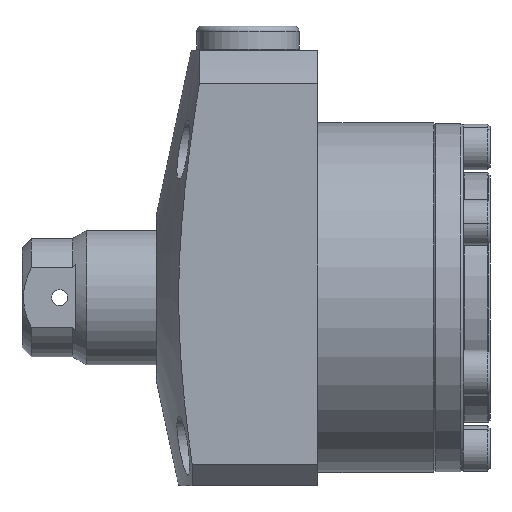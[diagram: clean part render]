
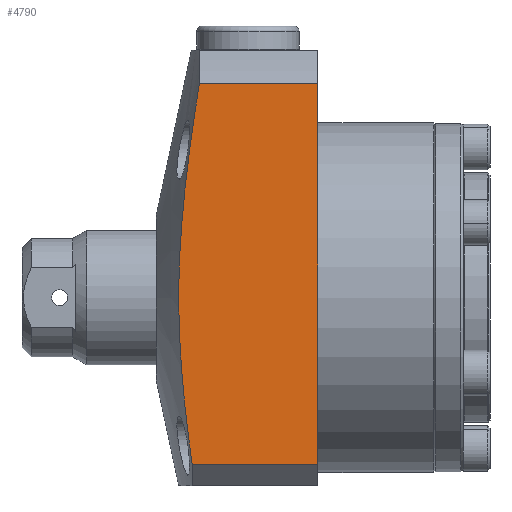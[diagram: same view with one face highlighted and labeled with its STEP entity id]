
A CAD part, left-side view. The second image highlights one B-rep face of the part: STEP entity #4790.
In plain terms, the highlighted planar face has unit normal (-1, 0, 0).
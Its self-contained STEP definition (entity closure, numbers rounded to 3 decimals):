
#281 = CARTESIAN_POINT ( 'NONE',  ( -35., 0., 39.799 ) ) ;
#284 = CARTESIAN_POINT ( 'NONE',  ( -35., 0., -31. ) ) ;
#285 = CARTESIAN_POINT ( 'NONE',  ( -35., 22.029, 39.799 ) ) ;
#286 = CARTESIAN_POINT ( 'NONE',  ( -35., 23.357, -31. ) ) ;
#1301 = VECTOR ( 'NONE', #5362, 1000. ) ;
#1302 = VECTOR ( 'NONE', #5364, 1000. ) ;
#1304 = VECTOR ( 'NONE', #5367, 1000. ) ;
#2366 = CARTESIAN_POINT ( 'NONE',  ( -35., 30., 46. ) ) ;
#2374 = FACE_OUTER_BOUND ( 'NONE', #3865, .T. ) ;
#2375 = PLANE ( 'NONE',  #4453 ) ;
#2377 = DIRECTION ( 'NONE',  ( 1., 0., 0. ) ) ;
#2378 = DIRECTION ( 'NONE',  ( 0., 0., -1. ) ) ;
#3865 = EDGE_LOOP ( 'NONE', ( #4088, #4090, #4092, #4094 ) ) ;
#4088 = ORIENTED_EDGE ( 'NONE', *, *, #5106, .F. ) ;
#4090 = ORIENTED_EDGE ( 'NONE', *, *, #5117, .T. ) ;
#4092 = ORIENTED_EDGE ( 'NONE', *, *, #5118, .F. ) ;
#4094 = ORIENTED_EDGE ( 'NONE', *, *, #5119, .T. ) ;
#4453 = AXIS2_PLACEMENT_3D ( 'NONE', #2366, #2377, #2378 ) ;
#4622 = B_SPLINE_CURVE_WITH_KNOTS ( 'NONE', 3,
 ( #5231, #5230, #5235, #5236, #5237, #5238, #5239, #5240, #5241, #5242, #5243, #5244, #5245, #5246, #5247, #5248, #5249, #5250 ),
 .UNSPECIFIED., .F., .F.,
 ( 4, 2, 2, 2, 2, 2, 2, 2, 4 ),
 ( 0.039, 0.048, 0.057, 0.066, 0.075, 0.084, 0.092, 0.101, 0.11 ),
 .UNSPECIFIED. ) ;
#4790 = ADVANCED_FACE ( 'NONE', ( #2374 ), #2375, .F. ) ;
#4992 = VERTEX_POINT ( 'NONE', #281 ) ;
#4994 = VERTEX_POINT ( 'NONE', #284 ) ;
#4995 = VERTEX_POINT ( 'NONE', #285 ) ;
#4996 = VERTEX_POINT ( 'NONE', #286 ) ;
#5106 = EDGE_CURVE ( 'NONE', #4996, #4995, #4622, .T. ) ;
#5117 = EDGE_CURVE ( 'NONE', #4996, #4994, #5345, .T. ) ;
#5118 = EDGE_CURVE ( 'NONE', #4992, #4994, #5356, .T. ) ;
#5119 = EDGE_CURVE ( 'NONE', #4992, #4995, #5365, .T. ) ;
#5230 = CARTESIAN_POINT ( 'NONE',  ( -35., 23.771, -28.059 ) ) ;
#5231 = CARTESIAN_POINT ( 'NONE',  ( -35., 23.357, -31. ) ) ;
#5235 = CARTESIAN_POINT ( 'NONE',  ( -35., 24.154, -25.11 ) ) ;
#5236 = CARTESIAN_POINT ( 'NONE',  ( -35., 24.825, -19.212 ) ) ;
#5237 = CARTESIAN_POINT ( 'NONE',  ( -35., 25.112, -16.262 ) ) ;
#5238 = CARTESIAN_POINT ( 'NONE',  ( -35., 25.558, -10.36 ) ) ;
#5239 = CARTESIAN_POINT ( 'NONE',  ( -35., 25.716, -7.408 ) ) ;
#5240 = CARTESIAN_POINT ( 'NONE',  ( -35., 25.874, -1.5 ) ) ;
#5241 = CARTESIAN_POINT ( 'NONE',  ( -35., 25.875, 1.455 ) ) ;
#5242 = CARTESIAN_POINT ( 'NONE',  ( -35., 25.718, 7.369 ) ) ;
#5243 = CARTESIAN_POINT ( 'NONE',  ( -35., 25.56, 10.328 ) ) ;
#5244 = CARTESIAN_POINT ( 'NONE',  ( -35., 25.114, 16.247 ) ) ;
#5245 = CARTESIAN_POINT ( 'NONE',  ( -35., 24.825, 19.211 ) ) ;
#5246 = CARTESIAN_POINT ( 'NONE',  ( -35., 24.153, 25.117 ) ) ;
#5247 = CARTESIAN_POINT ( 'NONE',  ( -35., 23.771, 28.062 ) ) ;
#5248 = CARTESIAN_POINT ( 'NONE',  ( -35., 22.942, 33.938 ) ) ;
#5249 = CARTESIAN_POINT ( 'NONE',  ( -35., 22.497, 36.871 ) ) ;
#5250 = CARTESIAN_POINT ( 'NONE',  ( -35., 22.029, 39.799 ) ) ;
#5345 = LINE ( 'NONE', #5361, #1301 ) ;
#5356 = LINE ( 'NONE', #5363, #1302 ) ;
#5361 = CARTESIAN_POINT ( 'NONE',  ( -35., 30., -31. ) ) ;
#5362 = DIRECTION ( 'NONE',  ( 0., -1., 0. ) ) ;
#5363 = CARTESIAN_POINT ( 'NONE',  ( -35., 0., -35. ) ) ;
#5364 = DIRECTION ( 'NONE',  ( 0., 0., -1. ) ) ;
#5365 = LINE ( 'NONE', #5366, #1304 ) ;
#5366 = CARTESIAN_POINT ( 'NONE',  ( -35., 0., 39.799 ) ) ;
#5367 = DIRECTION ( 'NONE',  ( 0., 1., 0. ) ) ;
